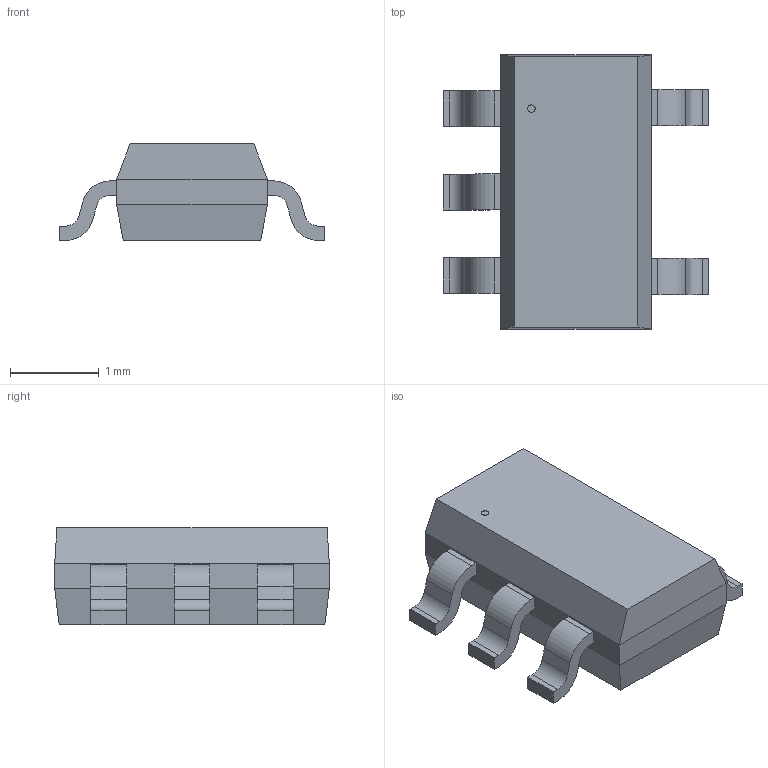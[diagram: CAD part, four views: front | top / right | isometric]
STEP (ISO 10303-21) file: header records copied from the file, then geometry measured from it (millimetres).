
FILE_DESCRIPTION(('STEP AP214'),'1');
FILE_NAME('74LVC1G07GV_SOT753_NEX','2025-10-18T08:19:28',(''),(''),'','','');
FILE_SCHEMA(('AUTOMOTIVE_DESIGN'));
Length unit declared in the file: millimetre
Products named in the file (1): product
Bounding box: 3 x 3.1 x 1.09 mm (x, y, z)
Volume: 5.7 mm3; surface area: 25.3 mm2
Topology: 7 solids, 7 shells, 87 faces, 211 edges, 138 vertices
Faces by surface type: plane 66, cylinder 21
Full cylindrical faces by diameter (mm): 0.085 x1
Entity records: 2577 total; most frequent: DIRECTION 430, ORIENTED_EDGE 420, CARTESIAN_POINT 249, EDGE_CURVE 210, LINE 168, VECTOR 168, VERTEX_POINT 138, AXIS2_PLACEMENT_3D 131
